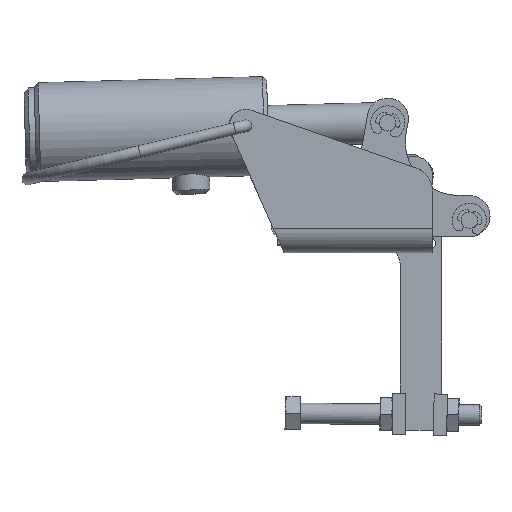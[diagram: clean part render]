
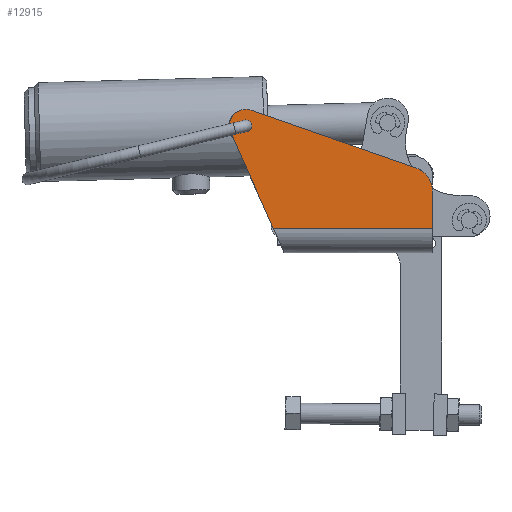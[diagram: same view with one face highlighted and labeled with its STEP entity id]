
A CAD part, top view. The second image highlights one B-rep face of the part: STEP entity #12915.
In plain terms, the highlighted planar face has unit normal (0, 0, 1).
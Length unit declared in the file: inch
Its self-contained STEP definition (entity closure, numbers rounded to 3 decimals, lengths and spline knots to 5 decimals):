
#11999=CARTESIAN_POINT('',(10.68382,2.0383,0.51953));
#12000=VERTEX_POINT('',#11999);
#12001=CARTESIAN_POINT('',(10.80631,2.17108,0.51953));
#12002=VERTEX_POINT('',#12001);
#12003=CARTESIAN_POINT('',(10.77381,2.07817,0.51953));
#12004=DIRECTION('',(0.0,0.0,-1.0));
#12005=DIRECTION('',(1.0,0.0,0.0));
#12006=AXIS2_PLACEMENT_3D('',#12003,#12004,#12005);
#12007=CIRCLE('',#12006,0.09843);
#12008=EDGE_CURVE('',#12000,#12002,#12007,.T.);
#12169=CARTESIAN_POINT('',(11.88798,1.46581,0.51953));
#12170=VERTEX_POINT('',#12169);
#12178=CARTESIAN_POINT('',(10.93764,1.46581,0.51953));
#12179=VERTEX_POINT('',#12178);
#12180=CARTESIAN_POINT('',(11.88798,1.46581,0.51953));
#12181=DIRECTION('',(-1.0,0.0,0.0));
#12182=VECTOR('',#12181,0.95034);
#12183=LINE('',#12180,#12182);
#12184=EDGE_CURVE('',#12170,#12179,#12183,.T.);
#12550=CARTESIAN_POINT('',(11.88798,1.68797,0.51953));
#12551=VERTEX_POINT('',#12550);
#12558=CARTESIAN_POINT('',(11.88798,1.68797,0.51953));
#12559=DIRECTION('',(0.0,-1.0,0.0));
#12560=VECTOR('',#12559,0.22216);
#12561=LINE('',#12558,#12560);
#12562=EDGE_CURVE('',#12551,#12170,#12561,.T.);
#12730=CARTESIAN_POINT('',(11.78909,1.82733,0.51953));
#12731=VERTEX_POINT('',#12730);
#12738=CARTESIAN_POINT('',(11.74035,1.68797,0.51953));
#12739=DIRECTION('',(0.0,0.0,-1.0));
#12740=DIRECTION('',(1.0,0.0,0.0));
#12741=AXIS2_PLACEMENT_3D('',#12738,#12739,#12740);
#12742=CIRCLE('',#12741,0.14764);
#12743=EDGE_CURVE('',#12731,#12551,#12742,.T.);
#12780=CARTESIAN_POINT('',(10.92426,1.49599,0.51953));
#12781=VERTEX_POINT('',#12780);
#12788=CARTESIAN_POINT('',(10.92426,1.49599,0.51953));
#12789=DIRECTION('',(-0.405,0.914,0.));
#12790=VECTOR('',#12789,0.59322);
#12791=LINE('',#12788,#12790);
#12792=EDGE_CURVE('',#12781,#12000,#12791,.T.);
#12805=CARTESIAN_POINT('',(10.80631,2.17108,0.51953));
#12806=DIRECTION('',(0.944,-0.33,0.0));
#12807=VECTOR('',#12806,1.04117);
#12808=LINE('',#12805,#12807);
#12809=EDGE_CURVE('',#12002,#12731,#12808,.T.);
#12865=CARTESIAN_POINT('',(10.93764,1.46581,0.51953));
#12866=DIRECTION('',(-0.405,0.914,0.0));
#12867=VECTOR('',#12866,0.03301);
#12868=LINE('',#12865,#12867);
#12869=EDGE_CURVE('',#12179,#12781,#12868,.T.);
#12901=CARTESIAN_POINT('',(11.286,1.69917,0.51953));
#12902=DIRECTION('',(0.0,0.0,1.0));
#12903=DIRECTION('',(1.0,0.0,0.0));
#12904=AXIS2_PLACEMENT_3D('',#12901,#12902,#12903);
#12905=PLANE('',#12904);
#12906=ORIENTED_EDGE('',*,*,#12184,.F.);
#12907=ORIENTED_EDGE('',*,*,#12562,.F.);
#12908=ORIENTED_EDGE('',*,*,#12743,.F.);
#12909=ORIENTED_EDGE('',*,*,#12809,.F.);
#12910=ORIENTED_EDGE('',*,*,#12008,.F.);
#12911=ORIENTED_EDGE('',*,*,#12792,.F.);
#12912=ORIENTED_EDGE('',*,*,#12869,.F.);
#12913=EDGE_LOOP('',(#12906,#12907,#12908,#12909,#12910,#12911,#12912));
#12914=FACE_OUTER_BOUND('',#12913,.T.);
#12915=ADVANCED_FACE('',(#12914),#12905,.T.);
